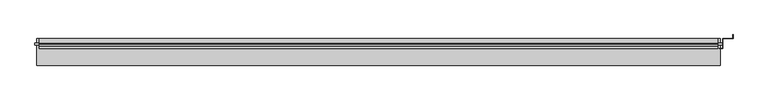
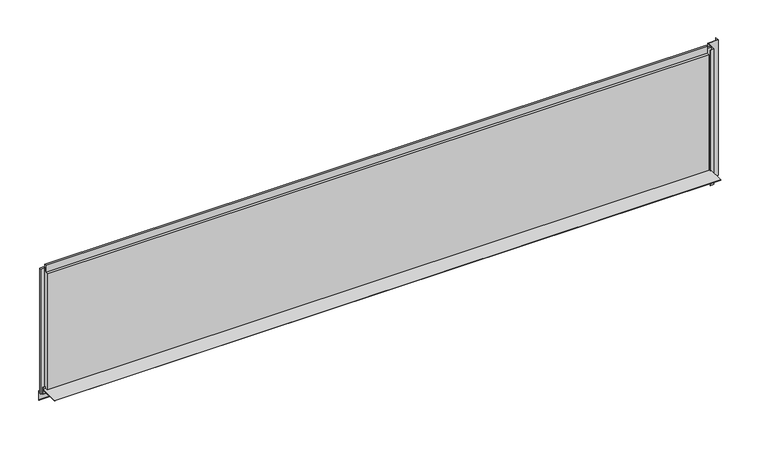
"""IFC4 building model written with IfcOpenShell, lengths in millimetres: plate geometry, Trimo_Qbiss Screen_Normal Panel-HORIZONTAL : HR - B."""

from ifc_helpers import new_model, si_unit, frame, origin, place, context, project, spatial, polyline, outline, extrude, source, transform, mapped, element, save


def plate_e577e1e9(model_context):
    return source(origin(), model_context, "Body", "SweptSolid", [
        extrude(outline(polyline([(66.7, 14.0835797), (67.5, 14.0835797), (67.5, -23.0), (100.0, -25.8433816), (100.0, -76.0), (87.1509533, -63.1509533), (87.7166388, -62.5852679), (99.2, -74.0686292), (99.2, -26.5764465), (66.7, -23.7330649), (66.7, 1.0), (-32.5, 1.0), (-32.5, 1.8), (66.7, 1.8), (66.7, 14.0835797)])), frame((-1687.5, 0.0, 0.0), z_axis=(1.0, 0.0, 0.0), x_axis=(0.0, 1.0, 0.0)), (0.0, 0.0, 1.0), 3375.0),
        extrude(outline(polyline([(1700.0, 50.0), (1700.0, 100.0), (1750.0, 100.0), (1750.0, 118.5), (1750.8, 118.5), (1750.8, 99.2), (1700.8, 99.2), (1700.8, 49.2), (1682.5, 49.2), (1682.5, 50.0), (1700.0, 50.0)])), frame((0.0, 0.0, -76.0), z_axis=(0.0, 0.0, 1.0), x_axis=(1.0, 0.0, 0.0)), (0.0, 0.0, 1.0), 725.0),
        extrude(outline(polyline([(-1678.0, 76.5978162), (-1678.0, 67.8978162), (-1697.0, 67.8978162), (-1697.0, 76.5978162), (-1678.0, 76.5978162)])), frame((0.0, 0.0, -20.0), z_axis=(0.0, 0.0, 1.0), x_axis=(1.0, 0.0, 0.0)), (0.0, 0.0, 1.0), 669.0),
        extrude(outline(polyline([(1678.0, 67.8978162), (1678.0, 76.5978162), (1697.0, 76.5978162), (1697.0, 67.8978162), (1678.0, 67.8978162)])), frame((0.0, 0.0, -20.0), z_axis=(0.0, 0.0, 1.0), x_axis=(1.0, 0.0, 0.0)), (0.0, 0.0, 1.0), 669.0),
        extrude(outline(polyline([(1675.0, 76.0), (1675.0, 71.0), (-1675.0, 71.0), (-1675.0, 76.0), (1675.0, 76.0)])), frame((0.0, 0.0, 628.0), z_axis=(0.0, 0.0, 1.0), x_axis=(1.0, 0.0, 0.0)), (0.0, 0.0, 1.0), 21.0),
        extrude(outline(polyline([(71.0, 627.0), (100.0, 627.0), (100.0, 0.0), (72.0, 0.0), (72.0, 15.5), (62.0, 15.5), (62.0, 7.0), (50.0, 7.0), (50.0, 627.0), (63.0, 627.0), (63.0, 664.5), (71.0, 664.5), (71.0, 627.0)])), frame((-1675.0, 0.0, 0.0), z_axis=(1.0, 0.0, 0.0), x_axis=(0.0, 1.0, 0.0)), (0.0, 0.0, 1.0), 3350.0),
    ])


if __name__ == "__main__":
    model = new_model("IFC4")
    model_context = context("Model", 3, world=origin())
    ifc_project = project(units=[si_unit("LENGTHUNIT", "METRE", prefix="MILLI")], contexts=[model_context])
    site = spatial("IfcSite", under=ifc_project)
    building = spatial("IfcBuilding", under=site)
    placement = place(None, origin())
    plate_shape = plate_e577e1e9(model_context)
    element("IfcPlate", 1, ObjectType="Trimo_Qbiss Screen_Normal Panel-HORIZONTAL : HR - B", at=placement, inside=building, context=model_context, shape_type="MappedRepresentation", body=[
        mapped(plate_shape, transform((0.0, 0.0, 0.0), x_axis=(1.0, 0.0, 0.0), y_axis=(0.0, 1.0, 0.0), z_axis=(0.0, 0.0, 1.0))),
    ])
    save(model, "model.ifc")
